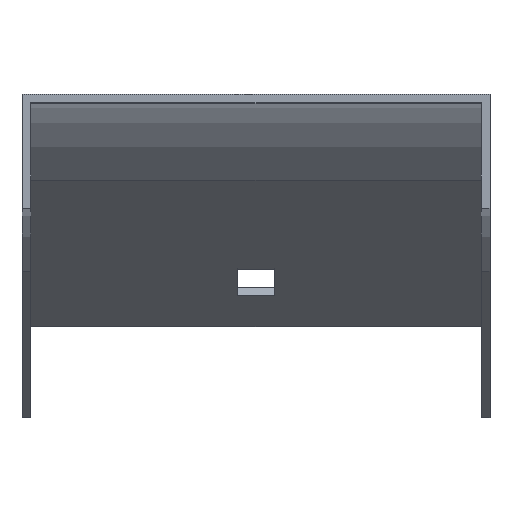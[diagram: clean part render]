
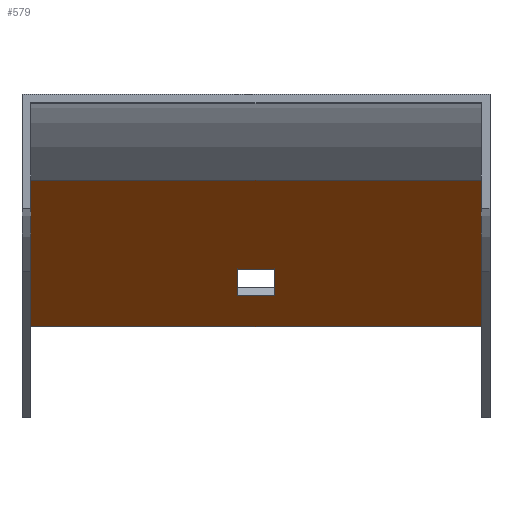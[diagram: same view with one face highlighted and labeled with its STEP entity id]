
A CAD part, top view. The second image highlights one B-rep face of the part: STEP entity #579.
In plain terms, the highlighted planar face has unit normal (0, -0.866, 0.5).
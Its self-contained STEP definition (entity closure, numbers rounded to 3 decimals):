
#1 = EDGE_CURVE ( 'NONE', #590, #471, #787, .T. ) ;
#11 = EDGE_CURVE ( 'NONE', #31, #337, #392, .T. ) ;
#13 = VERTEX_POINT ( 'NONE', #312 ) ;
#31 = VERTEX_POINT ( 'NONE', #522 ) ;
#33 = EDGE_CURVE ( 'NONE', #389, #683, #239, .T. ) ;
#55 = DIRECTION ( 'NONE',  ( 1., 0., 0. ) ) ;
#68 = DIRECTION ( 'NONE',  ( -1., 0., 0. ) ) ;
#78 = CARTESIAN_POINT ( 'NONE',  ( 39.5, -14.897, -101.2 ) ) ;
#110 = CARTESIAN_POINT ( 'NONE',  ( -39.5, -40.497, -145.541 ) ) ;
#112 = ORIENTED_EDGE ( 'NONE', *, *, #1, .T. ) ;
#154 = EDGE_CURVE ( 'NONE', #337, #590, #822, .T. ) ;
#167 = AXIS2_PLACEMENT_3D ( 'NONE', #321, #317, #588 ) ;
#173 = CARTESIAN_POINT ( 'NONE',  ( 39.5, -14.897, -101.2 ) ) ;
#182 = CARTESIAN_POINT ( 'NONE',  ( 41., -34.997, -136.014 ) ) ;
#193 = CARTESIAN_POINT ( 'NONE',  ( 41., -40.497, -145.541 ) ) ;
#215 = ORIENTED_EDGE ( 'NONE', *, *, #558, .T. ) ;
#239 = LINE ( 'NONE', #655, #559 ) ;
#260 = FACE_OUTER_BOUND ( 'NONE', #565, .T. ) ;
#278 = VECTOR ( 'NONE', #718, 1000. ) ;
#302 = CARTESIAN_POINT ( 'NONE',  ( -39.5, -14.897, -101.2 ) ) ;
#312 = CARTESIAN_POINT ( 'NONE',  ( 39.5, -40.497, -145.541 ) ) ;
#317 = DIRECTION ( 'NONE',  ( 0., -0.866, 0.5 ) ) ;
#321 = CARTESIAN_POINT ( 'NONE',  ( 41., -14.897, -101.2 ) ) ;
#337 = VERTEX_POINT ( 'NONE', #380 ) ;
#340 = PLANE ( 'NONE',  #167 ) ;
#346 = LINE ( 'NONE', #660, #499 ) ;
#348 = EDGE_LOOP ( 'NONE', ( #446, #674, #112, #473 ) ) ;
#354 = DIRECTION ( 'NONE',  ( 0., 0.5, 0.866 ) ) ;
#380 = CARTESIAN_POINT ( 'NONE',  ( -3.25, -34.997, -136.014 ) ) ;
#389 = VERTEX_POINT ( 'NONE', #110 ) ;
#392 = LINE ( 'NONE', #182, #278 ) ;
#434 = VECTOR ( 'NONE', #455, 1000. ) ;
#439 = ORIENTED_EDGE ( 'NONE', *, *, #597, .F. ) ;
#441 = DIRECTION ( 'NONE',  ( 0., -0.5, -0.866 ) ) ;
#445 = DIRECTION ( 'NONE',  ( 0., 0.5, 0.866 ) ) ;
#446 = ORIENTED_EDGE ( 'NONE', *, *, #11, .T. ) ;
#455 = DIRECTION ( 'NONE',  ( 0., 0.5, 0.866 ) ) ;
#459 = DIRECTION ( 'NONE',  ( -1., 0., 0. ) ) ;
#471 = VERTEX_POINT ( 'NONE', #627 ) ;
#473 = ORIENTED_EDGE ( 'NONE', *, *, #695, .T. ) ;
#499 = VECTOR ( 'NONE', #68, 1000. ) ;
#522 = CARTESIAN_POINT ( 'NONE',  ( 3.25, -34.997, -136.014 ) ) ;
#523 = LINE ( 'NONE', #193, #569 ) ;
#531 = FACE_BOUND ( 'NONE', #348, .T. ) ;
#544 = VECTOR ( 'NONE', #55, 1000. ) ;
#558 = EDGE_CURVE ( 'NONE', #13, #667, #677, .T. ) ;
#559 = VECTOR ( 'NONE', #445, 1000. ) ;
#565 = EDGE_LOOP ( 'NONE', ( #785, #439, #215, #575 ) ) ;
#568 = CARTESIAN_POINT ( 'NONE',  ( 3.25, -14.897, -101.2 ) ) ;
#569 = VECTOR ( 'NONE', #459, 1000. ) ;
#575 = ORIENTED_EDGE ( 'NONE', *, *, #774, .T. ) ;
#579 = ADVANCED_FACE ( 'NONE', ( #260, #531 ), #340, .T. ) ;
#588 = DIRECTION ( 'NONE',  ( 0., -0.5, -0.866 ) ) ;
#590 = VERTEX_POINT ( 'NONE', #855 ) ;
#597 = EDGE_CURVE ( 'NONE', #13, #389, #523, .T. ) ;
#612 = CARTESIAN_POINT ( 'NONE',  ( -3.25, -14.897, -101.2 ) ) ;
#627 = CARTESIAN_POINT ( 'NONE',  ( 3.25, -30.497, -128.22 ) ) ;
#637 = VECTOR ( 'NONE', #441, 1000. ) ;
#655 = CARTESIAN_POINT ( 'NONE',  ( -39.5, -14.897, -101.2 ) ) ;
#660 = CARTESIAN_POINT ( 'NONE',  ( 41., -14.897, -101.2 ) ) ;
#667 = VERTEX_POINT ( 'NONE', #173 ) ;
#674 = ORIENTED_EDGE ( 'NONE', *, *, #154, .T. ) ;
#677 = LINE ( 'NONE', #78, #434 ) ;
#683 = VERTEX_POINT ( 'NONE', #302 ) ;
#695 = EDGE_CURVE ( 'NONE', #471, #31, #842, .T. ) ;
#718 = DIRECTION ( 'NONE',  ( -1., 0., 0. ) ) ;
#773 = VECTOR ( 'NONE', #354, 1000. ) ;
#774 = EDGE_CURVE ( 'NONE', #667, #683, #346, .T. ) ;
#785 = ORIENTED_EDGE ( 'NONE', *, *, #33, .F. ) ;
#787 = LINE ( 'NONE', #836, #544 ) ;
#822 = LINE ( 'NONE', #612, #773 ) ;
#836 = CARTESIAN_POINT ( 'NONE',  ( 41., -30.497, -128.22 ) ) ;
#842 = LINE ( 'NONE', #568, #637 ) ;
#855 = CARTESIAN_POINT ( 'NONE',  ( -3.25, -30.497, -128.22 ) ) ;
